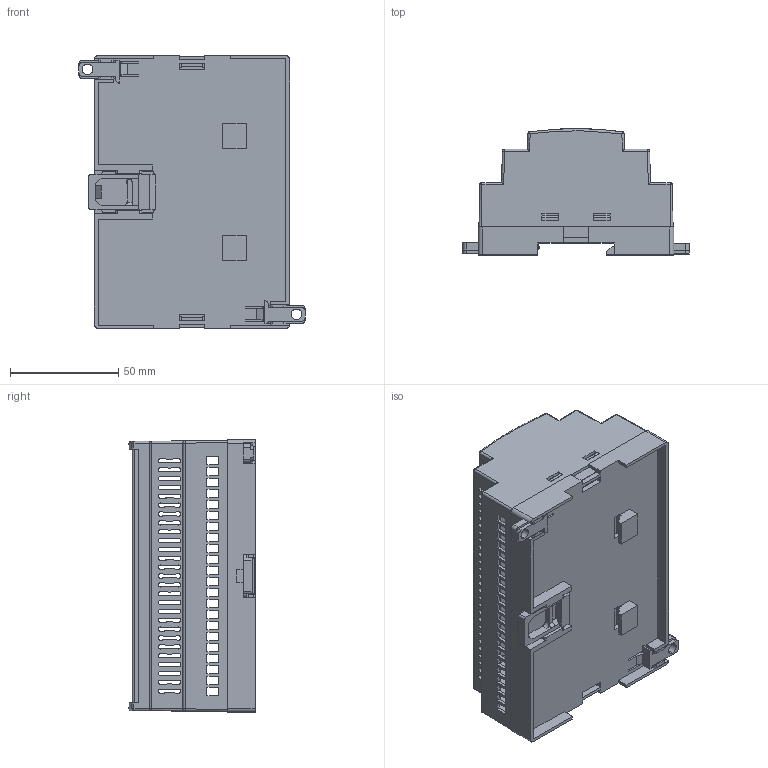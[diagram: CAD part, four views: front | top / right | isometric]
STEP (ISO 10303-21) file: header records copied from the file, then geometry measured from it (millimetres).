
FILE_DESCRIPTION (( 'STEP AP203' ), '1' );
FILE_NAME ('RT-207-C.STEP', '2017-03-08T07:11:55', ( '' ), ( '' ), 'SwSTEP 2.0', 'SolidWorks 2015', '' );
FILE_SCHEMA (( 'CONFIG_CONTROL_DESIGN' ));
Length unit declared in the file: millimetre
Products named in the file (6): RT-107-TOP_BODY_C; RT-107_BASE; Wall_Mount; Rail_Lock; RT-107-Panel; RT-207-C
Assembly tree (6 placements, depth 2):
  RT-207-C
    RT-107-TOP_BODY_C
    RT-107_BASE
    Wall_Mount
    Rail_Lock  x2
    RT-107-Panel
Bounding box: 104.62 x 58.42 x 126.25 mm (x, y, z)
Volume: 85502.8 mm3; surface area: 96096.2 mm2
Topology: 10 solids, 10 shells, 1125 faces, 3236 edges, 2127 vertices
Faces by surface type: plane 604, cylinder 490, sphere 12, torus 8, cone 8, bspline 3
Entity records: 36945 total; most frequent: CARTESIAN_POINT 8229, ORIENTED_EDGE 6336, DIRECTION 5188, EDGE_CURVE 3168, LINE 2148, VECTOR 2148, VERTEX_POINT 2087, AXIS2_PLACEMENT_3D 1520
